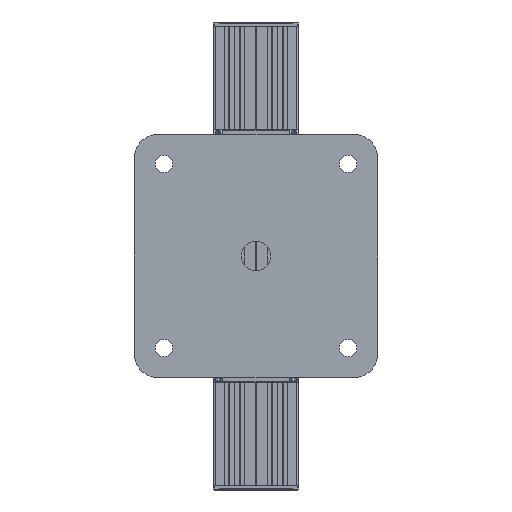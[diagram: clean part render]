
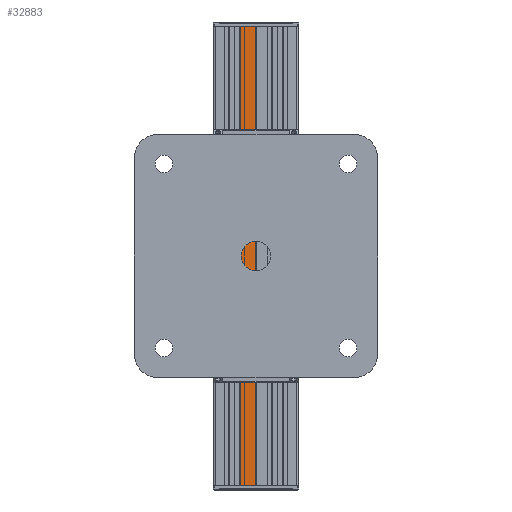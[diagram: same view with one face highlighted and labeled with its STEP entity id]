
A CAD part, front view. The second image highlights one B-rep face of the part: STEP entity #32883.
In plain terms, the highlighted planar face has unit normal (0, -1, 0).
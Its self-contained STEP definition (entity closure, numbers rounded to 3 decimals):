
#3168 = DIRECTION ( 'NONE',  ( 1., 0., 0. ) ) ;
#3169 = VECTOR ( 'NONE', #3168, 1000. ) ;
#3170 = CARTESIAN_POINT ( 'NONE',  ( -16., 800., 235. ) ) ;
#3171 = LINE ( 'NONE', #3170, #3169 ) ;
#3861 = DIRECTION ( 'NONE',  ( 0., 0., -1. ) ) ;
#3862 = VECTOR ( 'NONE', #3861, 1000. ) ;
#3863 = CARTESIAN_POINT ( 'NONE',  ( -0.3, 800., 235. ) ) ;
#3864 = LINE ( 'NONE', #3863, #3862 ) ;
#3991 = CARTESIAN_POINT ( 'NONE',  ( -16., 800., -235. ) ) ;
#3992 = LINE ( 'NONE', #3991, #4059 ) ;
#4058 = DIRECTION ( 'NONE',  ( 1., 0., 0. ) ) ;
#4059 = VECTOR ( 'NONE', #4058, 1000. ) ;
#9333 = CARTESIAN_POINT ( 'NONE',  ( -16., 800., 235. ) ) ;
#9386 = CARTESIAN_POINT ( 'NONE',  ( -16., 800., -235. ) ) ;
#10946 = DIRECTION ( 'NONE',  ( 0., 0., -1. ) ) ;
#10948 = VECTOR ( 'NONE', #10946, 1000. ) ;
#10950 = CARTESIAN_POINT ( 'NONE',  ( -16., 800., 235. ) ) ;
#10952 = LINE ( 'NONE', #10950, #10948 ) ;
#21209 = CARTESIAN_POINT ( 'NONE',  ( -0.3, 800., 235. ) ) ;
#21967 = FACE_OUTER_BOUND ( 'NONE', #36577, .T. ) ;
#21989 = DIRECTION ( 'NONE',  ( -1., 0., 0. ) ) ;
#22013 = PLANE ( 'NONE',  #22041 ) ;
#22018 = CARTESIAN_POINT ( 'NONE',  ( -16., 800., 235. ) ) ;
#22028 = DIRECTION ( 'NONE',  ( 0., 1., 0. ) ) ;
#22041 = AXIS2_PLACEMENT_3D ( 'NONE', #22018, #22028, #21989 ) ;
#22618 = CARTESIAN_POINT ( 'NONE',  ( -0.3, 800., -235. ) ) ;
#28200 = ORIENTED_EDGE ( 'NONE', *, *, #29067, .T. ) ;
#28201 = EDGE_CURVE ( 'NONE', #35631, #37806, #3171, .T. ) ;
#28439 = ORIENTED_EDGE ( 'NONE', *, *, #28201, .F. ) ;
#28440 = EDGE_CURVE ( 'NONE', #37806, #33100, #3864, .T. ) ;
#28454 = ORIENTED_EDGE ( 'NONE', *, *, #28440, .F. ) ;
#28455 = EDGE_CURVE ( 'NONE', #35659, #33100, #3992, .T. ) ;
#28915 = ORIENTED_EDGE ( 'NONE', *, *, #28455, .T. ) ;
#29067 = EDGE_CURVE ( 'NONE', #35631, #35659, #10952, .T. ) ;
#32883 = ADVANCED_FACE ( 'NONE', ( #21967 ), #22013, .F. ) ;
#33100 = VERTEX_POINT ( 'NONE', #22618 ) ;
#35631 = VERTEX_POINT ( 'NONE', #9333 ) ;
#35659 = VERTEX_POINT ( 'NONE', #9386 ) ;
#36577 = EDGE_LOOP ( 'NONE', ( #28915, #28454, #28439, #28200 ) ) ;
#37806 = VERTEX_POINT ( 'NONE', #21209 ) ;
